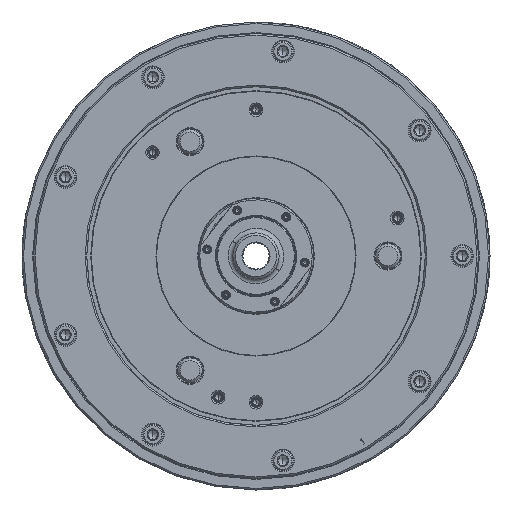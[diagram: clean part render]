
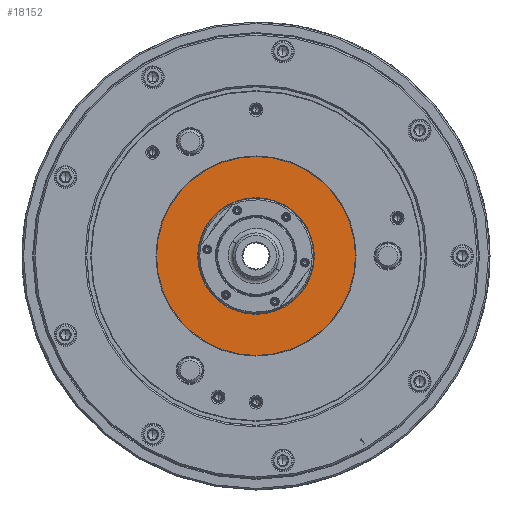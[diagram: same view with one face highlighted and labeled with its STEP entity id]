
A CAD part, left-side view. The second image highlights one B-rep face of the part: STEP entity #18152.
In plain terms, the highlighted planar face has unit normal (-1, 0, 0) as drawn and (0, 0, -1) by its records, which use the part's own axes.
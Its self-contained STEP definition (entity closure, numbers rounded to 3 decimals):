
#1166 = DIRECTION ( 'NONE',  ( 0., 0., 1. ) ) ;
#3742 = CARTESIAN_POINT ( 'NONE',  ( -64.616, 0., -126.8 ) ) ;
#8544 = VERTEX_POINT ( 'NONE', #146609 ) ;
#9016 = ORIENTED_EDGE ( 'NONE', *, *, #72804, .T. ) ;
#10960 = DIRECTION ( 'NONE',  ( 1., 0., 0. ) ) ;
#11506 = FACE_OUTER_BOUND ( 'NONE', #102095, .T. ) ;
#12574 = DIRECTION ( 'NONE',  ( 1., 0., 0. ) ) ;
#18152 = ADVANCED_FACE ( 'NONE', ( #82623, #11506 ), #96830, .T. ) ;
#28139 = CIRCLE ( 'NONE', #64816, 37.9 ) ;
#38084 = DIRECTION ( 'NONE',  ( 0., 0., -1. ) ) ;
#38468 = DIRECTION ( 'NONE',  ( 0., 0., 1. ) ) ;
#39012 = CARTESIAN_POINT ( 'NONE',  ( 0., -64.616, -126.8 ) ) ;
#40187 = CIRCLE ( 'NONE', #134066, 64.616 ) ;
#47468 = EDGE_CURVE ( 'NONE', #174231, #130267, #127539, .T. ) ;
#56361 = AXIS2_PLACEMENT_3D ( 'NONE', #132967, #75165, #150021 ) ;
#57418 = DIRECTION ( 'NONE',  ( 1., 0., 0. ) ) ;
#58045 = AXIS2_PLACEMENT_3D ( 'NONE', #39012, #38084, #154680 ) ;
#64816 = AXIS2_PLACEMENT_3D ( 'NONE', #125637, #38468, #10960 ) ;
#65393 = CIRCLE ( 'NONE', #56361, 37.9 ) ;
#72804 = EDGE_CURVE ( 'NONE', #8544, #162990, #65393, .T. ) ;
#75165 = DIRECTION ( 'NONE',  ( 0., 0., 1. ) ) ;
#80298 = EDGE_LOOP ( 'NONE', ( #130807, #9016 ) ) ;
#82623 = FACE_BOUND ( 'NONE', #80298, .T. ) ;
#83351 = CARTESIAN_POINT ( 'NONE',  ( -37.9, 0., -126.8 ) ) ;
#84886 = DIRECTION ( 'NONE',  ( 0., 0., 1. ) ) ;
#93211 = ORIENTED_EDGE ( 'NONE', *, *, #47468, .F. ) ;
#96830 = PLANE ( 'NONE',  #58045 ) ;
#102095 = EDGE_LOOP ( 'NONE', ( #93211, #181812 ) ) ;
#109425 = AXIS2_PLACEMENT_3D ( 'NONE', #115885, #1166, #12574 ) ;
#114283 = CARTESIAN_POINT ( 'NONE',  ( 0., 0., -126.8 ) ) ;
#115885 = CARTESIAN_POINT ( 'NONE',  ( 0., 0., -126.8 ) ) ;
#125637 = CARTESIAN_POINT ( 'NONE',  ( 0., 0., -126.8 ) ) ;
#127539 = CIRCLE ( 'NONE', #109425, 64.616 ) ;
#130267 = VERTEX_POINT ( 'NONE', #162930 ) ;
#130807 = ORIENTED_EDGE ( 'NONE', *, *, #174722, .T. ) ;
#132967 = CARTESIAN_POINT ( 'NONE',  ( 0., 0., -126.8 ) ) ;
#134066 = AXIS2_PLACEMENT_3D ( 'NONE', #114283, #84886, #57418 ) ;
#146609 = CARTESIAN_POINT ( 'NONE',  ( 37.9, 0., -126.8 ) ) ;
#150021 = DIRECTION ( 'NONE',  ( 1., 0., 0. ) ) ;
#154680 = DIRECTION ( 'NONE',  ( -1., 0., 0. ) ) ;
#160634 = EDGE_CURVE ( 'NONE', #130267, #174231, #40187, .T. ) ;
#162930 = CARTESIAN_POINT ( 'NONE',  ( 64.616, 0., -126.8 ) ) ;
#162990 = VERTEX_POINT ( 'NONE', #83351 ) ;
#174231 = VERTEX_POINT ( 'NONE', #3742 ) ;
#174722 = EDGE_CURVE ( 'NONE', #162990, #8544, #28139, .T. ) ;
#181812 = ORIENTED_EDGE ( 'NONE', *, *, #160634, .F. ) ;
